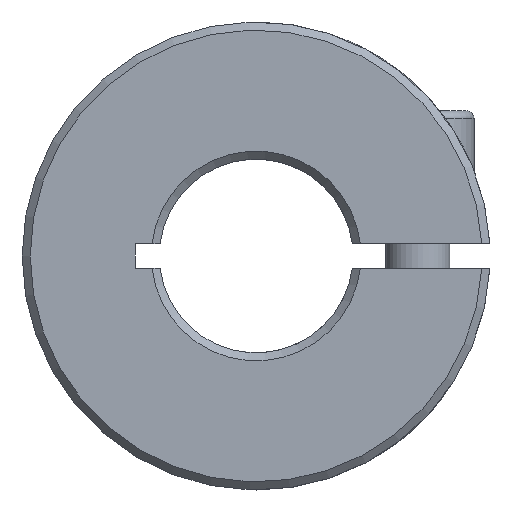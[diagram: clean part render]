
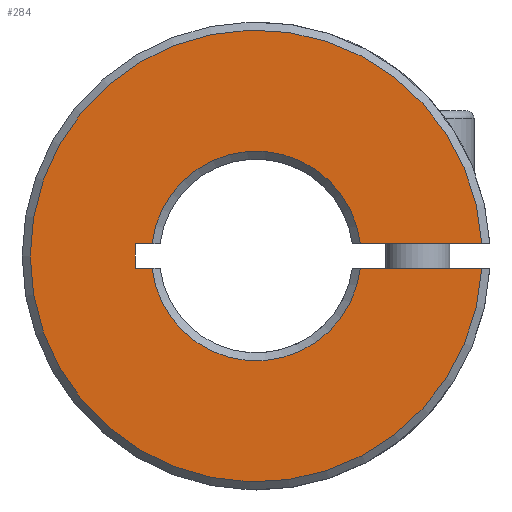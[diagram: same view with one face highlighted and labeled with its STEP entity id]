
A CAD part, front view. The second image highlights one B-rep face of the part: STEP entity #284.
In plain terms, the highlighted planar face has unit normal (0, -1, 0).
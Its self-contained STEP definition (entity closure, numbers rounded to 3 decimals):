
#284 = ADVANCED_FACE( '', ( #560 ), #561, .F. );
#560 = FACE_OUTER_BOUND( '', #808, .T. );
#561 = PLANE( '', #809 );
#808 = EDGE_LOOP( '', ( #1317, #1318, #1319, #1320, #1321, #1322, #1323, #1324 ) );
#809 = AXIS2_PLACEMENT_3D( '', #1325, #1326, #1327 );
#1317 = ORIENTED_EDGE( '', *, *, #1342, .T. );
#1318 = ORIENTED_EDGE( '', *, *, #1469, .T. );
#1319 = ORIENTED_EDGE( '', *, *, #1524, .F. );
#1320 = ORIENTED_EDGE( '', *, *, #1419, .T. );
#1321 = ORIENTED_EDGE( '', *, *, #1512, .F. );
#1322 = ORIENTED_EDGE( '', *, *, #1435, .F. );
#1323 = ORIENTED_EDGE( '', *, *, #1503, .T. );
#1324 = ORIENTED_EDGE( '', *, *, #1492, .T. );
#1325 = CARTESIAN_POINT( '', ( 0., -45., 0. ) );
#1326 = DIRECTION( '', ( 0., 1., 0. ) );
#1327 = DIRECTION( '', ( 0., 0., 1. ) );
#1342 = EDGE_CURVE( '', #1542, #1540, #1543, .T. );
#1419 = EDGE_CURVE( '', #1669, #1673, #1675, .T. );
#1435 = EDGE_CURVE( '', #1698, #1699, #1700, .T. );
#1469 = EDGE_CURVE( '', #1540, #1743, #1745, .F. );
#1492 = EDGE_CURVE( '', #1771, #1542, #1773, .T. );
#1503 = EDGE_CURVE( '', #1698, #1771, #1786, .T. );
#1512 = EDGE_CURVE( '', #1699, #1673, #1796, .T. );
#1524 = EDGE_CURVE( '', #1669, #1743, #1808, .T. );
#1540 = VERTEX_POINT( '', #1826 );
#1542 = VERTEX_POINT( '', #1831 );
#1543 = LINE( '', #1832, #1833 );
#1669 = VERTEX_POINT( '', #2406 );
#1673 = VERTEX_POINT( '', #2413 );
#1675 = CIRCLE( '', #2418, 6.5 );
#1698 = VERTEX_POINT( '', #2452 );
#1699 = VERTEX_POINT( '', #2453 );
#1700 = LINE( '', #2454, #2455 );
#1743 = VERTEX_POINT( '', #2521 );
#1745 = CIRCLE( '', #2526, 14. );
#1771 = VERTEX_POINT( '', #2568 );
#1773 = CIRCLE( '', #2573, 6.5 );
#1786 = LINE( '', #2593, #2594 );
#1796 = LINE( '', #2608, #2609 );
#1808 = LINE( '', #2624, #2625 );
#1826 = CARTESIAN_POINT( '', ( 13.98, -45., 0.75 ) );
#1831 = CARTESIAN_POINT( '', ( 6.457, -45., 0.75 ) );
#1832 = CARTESIAN_POINT( '', ( 0., -45., 0.75 ) );
#1833 = VECTOR( '', #2641, 1000. );
#2406 = CARTESIAN_POINT( '', ( 6.457, -45., -0.75 ) );
#2413 = CARTESIAN_POINT( '', ( -6.457, -45., -0.75 ) );
#2418 = AXIS2_PLACEMENT_3D( '', #2736, #2737, #2738 );
#2452 = CARTESIAN_POINT( '', ( -7.5, -45., 0.75 ) );
#2453 = CARTESIAN_POINT( '', ( -7.5, -45., -0.75 ) );
#2454 = CARTESIAN_POINT( '', ( -7.5, -45., 0. ) );
#2455 = VECTOR( '', #2753, 1000. );
#2521 = CARTESIAN_POINT( '', ( 13.98, -45., -0.75 ) );
#2526 = AXIS2_PLACEMENT_3D( '', #2790, #2791, #2792 );
#2568 = CARTESIAN_POINT( '', ( -6.457, -45., 0.75 ) );
#2573 = AXIS2_PLACEMENT_3D( '', #2816, #2817, #2818 );
#2593 = CARTESIAN_POINT( '', ( 0., -45., 0.75 ) );
#2594 = VECTOR( '', #2827, 1000. );
#2608 = CARTESIAN_POINT( '', ( 0., -45., -0.75 ) );
#2609 = VECTOR( '', #2832, 1000. );
#2624 = CARTESIAN_POINT( '', ( 0., -45., -0.75 ) );
#2625 = VECTOR( '', #2836, 1000. );
#2641 = DIRECTION( '', ( 1., 0., 0. ) );
#2736 = CARTESIAN_POINT( '', ( 0., -45., 0. ) );
#2737 = DIRECTION( '', ( 0., 1., 0. ) );
#2738 = DIRECTION( '', ( 0., 0., 1. ) );
#2753 = DIRECTION( '', ( 0., 0., -1. ) );
#2790 = CARTESIAN_POINT( '', ( 0., -45., 0. ) );
#2791 = DIRECTION( '', ( 0., 1., 0. ) );
#2792 = DIRECTION( '', ( 0., 0., 1. ) );
#2816 = CARTESIAN_POINT( '', ( 0., -45., 0. ) );
#2817 = DIRECTION( '', ( 0., 1., 0. ) );
#2818 = DIRECTION( '', ( 0., 0., 1. ) );
#2827 = DIRECTION( '', ( 1., 0., 0. ) );
#2832 = DIRECTION( '', ( 1., 0., 0. ) );
#2836 = DIRECTION( '', ( 1., 0., 0. ) );
